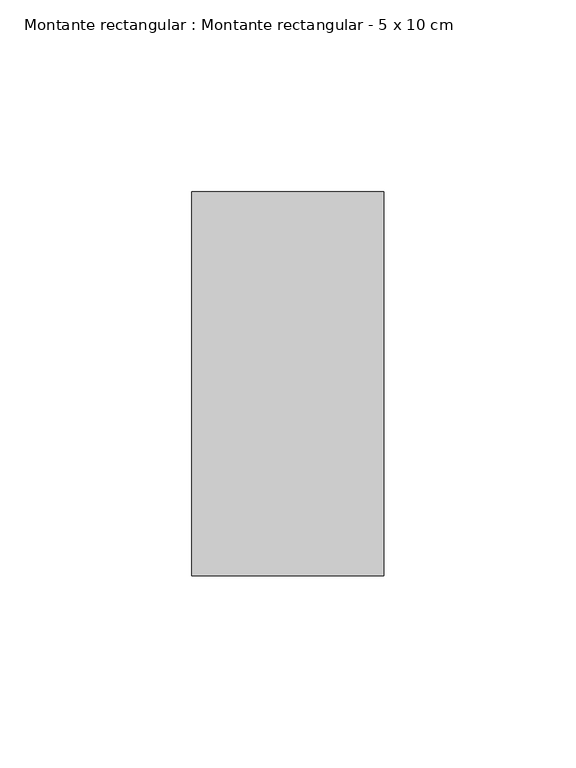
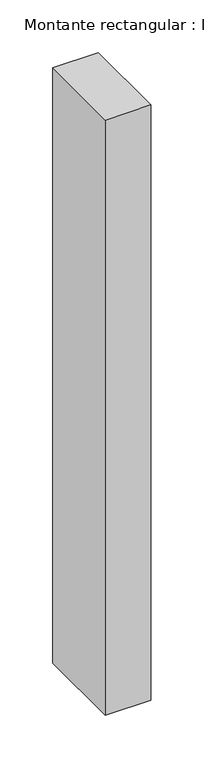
"""IFC4 building model written with IfcOpenShell, lengths in millimetres: member geometry, Montante rectangular : Montante rectangular - 5 x 10 cm."""

from ifc_helpers import new_model, si_unit, frame, origin, place, context, project, spatial, polyline, outline, extrude, source, transform, mapped, element, save


def montante_rectangular_montante_rectangular_5_x_10_cm_cd2da49d(model_context):
    return source(origin(), model_context, "Body", "SweptSolid", [
        extrude(outline(polyline([(25.0, 50.0), (25.0, -50.0), (-25.0, -50.0), (-25.0, 50.0), (25.0, 50.0)])), frame((0.0, 0.0, -690.0), z_axis=(0.0, 0.0, 1.0), x_axis=(1.0, 0.0, 0.0)), (0.0, 0.0, 1.0), 690.0),
    ])


if __name__ == "__main__":
    model = new_model("IFC4")
    model_context = context("Model", 3, world=origin())
    ifc_project = project(units=[si_unit("LENGTHUNIT", "METRE", prefix="MILLI")], contexts=[model_context])
    site = spatial("IfcSite", under=ifc_project)
    building = spatial("IfcBuilding", under=site)
    placement = place(None, origin())
    montante_rectangular_montante_rectangular_5_x_10_cm_shape = montante_rectangular_montante_rectangular_5_x_10_cm_cd2da49d(model_context)
    element("IfcMember", 1, ObjectType="Montante rectangular : Montante rectangular - 5 x 10 cm", at=placement, inside=building, context=model_context, shape_type="MappedRepresentation", body=[
        mapped(montante_rectangular_montante_rectangular_5_x_10_cm_shape, transform((0.0, 0.0, 0.0), x_axis=(1.0, 0.0, 0.0), y_axis=(0.0, 1.0, 0.0), z_axis=(0.0, 0.0, 1.0))),
    ])
    save(model, "model.ifc")
